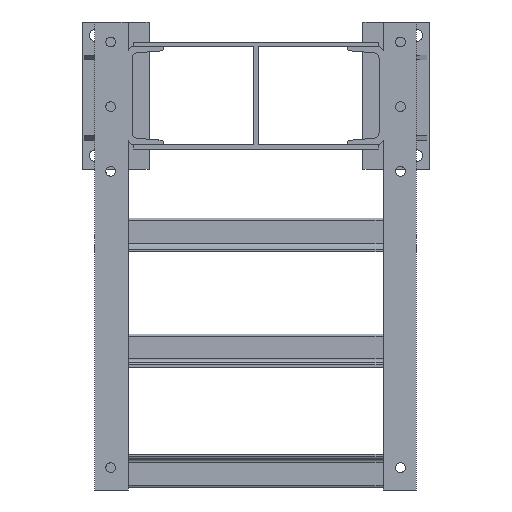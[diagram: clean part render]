
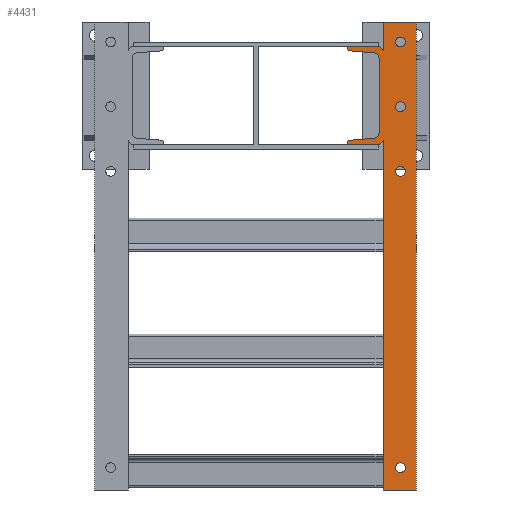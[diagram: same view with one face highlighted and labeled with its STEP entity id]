
A CAD part, front view. The second image highlights one B-rep face of the part: STEP entity #4431.
In plain terms, the highlighted planar face has unit normal (0, -1, 0).
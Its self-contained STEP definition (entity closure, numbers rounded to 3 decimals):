
#54=FACE_BOUND('',#640,.T.);
#55=FACE_BOUND('',#641,.T.);
#56=FACE_BOUND('',#642,.T.);
#57=FACE_BOUND('',#643,.T.);
#111=CIRCLE('',#4630,6.5);
#112=CIRCLE('',#4634,6.5);
#113=CIRCLE('',#4637,12.5);
#114=CIRCLE('',#4640,12.5);
#138=CIRCLE('',#4713,11.);
#140=CIRCLE('',#4716,11.);
#142=CIRCLE('',#4719,11.);
#144=CIRCLE('',#4722,11.);
#399=FACE_OUTER_BOUND('',#639,.T.);
#639=EDGE_LOOP('',(#3817,#3818,#3819,#3820,#3821,#3822,#3823,#3824,#3825,
#3826,#3827,#3828,#3829,#3830,#3831,#3832,#3833,#3834));
#640=EDGE_LOOP('',(#3835));
#641=EDGE_LOOP('',(#3836));
#642=EDGE_LOOP('',(#3837));
#643=EDGE_LOOP('',(#3838));
#907=LINE('',#6419,#1414);
#1025=LINE('',#6721,#1532);
#1031=LINE('',#6731,#1538);
#1034=LINE('',#6739,#1541);
#1042=LINE('',#6757,#1549);
#1044=LINE('',#6761,#1551);
#1046=LINE('',#6768,#1553);
#1049=LINE('',#6776,#1556);
#1052=LINE('',#6783,#1559);
#1053=LINE('',#6786,#1560);
#1076=LINE('',#6849,#1583);
#1148=LINE('',#7045,#1655);
#1150=LINE('',#7048,#1657);
#1151=LINE('',#7049,#1658);
#1414=VECTOR('',#5221,72.);
#1532=VECTOR('',#5489,12.806);
#1538=VECTOR('',#5497,72.);
#1541=VECTOR('',#5506,12.806);
#1549=VECTOR('',#5526,3.299);
#1551=VECTOR('',#5530,3.299);
#1553=VECTOR('',#5538,53.686);
#1556=VECTOR('',#5547,166.96);
#1559=VECTOR('',#5556,53.686);
#1560=VECTOR('',#5559,65.);
#1583=VECTOR('',#5602,785.);
#1655=VECTOR('',#5838,1050.);
#1657=VECTOR('',#5842,75.);
#1658=VECTOR('',#5843,75.);
#1855=VERTEX_POINT('',#6416);
#1856=VERTEX_POINT('',#6418);
#1964=VERTEX_POINT('',#6719);
#1965=VERTEX_POINT('',#6720);
#1968=VERTEX_POINT('',#6729);
#1970=VERTEX_POINT('',#6738);
#1973=VERTEX_POINT('',#6751);
#1974=VERTEX_POINT('',#6753);
#1975=VERTEX_POINT('',#6759);
#1976=VERTEX_POINT('',#6763);
#1977=VERTEX_POINT('',#6767);
#1978=VERTEX_POINT('',#6771);
#1979=VERTEX_POINT('',#6775);
#1980=VERTEX_POINT('',#6779);
#1981=VERTEX_POINT('',#6785);
#2011=VERTEX_POINT('',#6847);
#2036=VERTEX_POINT('',#6996);
#2038=VERTEX_POINT('',#7001);
#2040=VERTEX_POINT('',#7006);
#2042=VERTEX_POINT('',#7011);
#2052=VERTEX_POINT('',#7042);
#2053=VERTEX_POINT('',#7044);
#2338=EDGE_CURVE('',#1855,#1856,#907,.T.);
#2487=EDGE_CURVE('',#1964,#1965,#1025,.T.);
#2493=EDGE_CURVE('',#1968,#1964,#1031,.T.);
#2497=EDGE_CURVE('',#1970,#1855,#1034,.T.);
#2505=EDGE_CURVE('',#1973,#1974,#111,.T.);
#2507=EDGE_CURVE('',#1856,#1973,#1042,.T.);
#2509=EDGE_CURVE('',#1975,#1968,#1044,.T.);
#2511=EDGE_CURVE('',#1976,#1975,#112,.T.);
#2512=EDGE_CURVE('',#1974,#1977,#1046,.T.);
#2514=EDGE_CURVE('',#1977,#1978,#113,.T.);
#2516=EDGE_CURVE('',#1978,#1979,#1049,.T.);
#2518=EDGE_CURVE('',#1979,#1980,#114,.T.);
#2520=EDGE_CURVE('',#1980,#1976,#1052,.T.);
#2521=EDGE_CURVE('',#1965,#1981,#1053,.T.);
#2553=EDGE_CURVE('',#2011,#1970,#1076,.T.);
#2630=EDGE_CURVE('',#2036,#2036,#138,.T.);
#2632=EDGE_CURVE('',#2038,#2038,#140,.T.);
#2634=EDGE_CURVE('',#2040,#2040,#142,.T.);
#2636=EDGE_CURVE('',#2042,#2042,#144,.T.);
#2653=EDGE_CURVE('',#2053,#2052,#1148,.T.);
#2655=EDGE_CURVE('',#2052,#1981,#1150,.T.);
#2656=EDGE_CURVE('',#2053,#2011,#1151,.T.);
#3817=ORIENTED_EDGE('',*,*,#2655,.T.);
#3818=ORIENTED_EDGE('',*,*,#2521,.F.);
#3819=ORIENTED_EDGE('',*,*,#2487,.F.);
#3820=ORIENTED_EDGE('',*,*,#2493,.F.);
#3821=ORIENTED_EDGE('',*,*,#2509,.F.);
#3822=ORIENTED_EDGE('',*,*,#2511,.F.);
#3823=ORIENTED_EDGE('',*,*,#2520,.F.);
#3824=ORIENTED_EDGE('',*,*,#2518,.F.);
#3825=ORIENTED_EDGE('',*,*,#2516,.F.);
#3826=ORIENTED_EDGE('',*,*,#2514,.F.);
#3827=ORIENTED_EDGE('',*,*,#2512,.F.);
#3828=ORIENTED_EDGE('',*,*,#2505,.F.);
#3829=ORIENTED_EDGE('',*,*,#2507,.F.);
#3830=ORIENTED_EDGE('',*,*,#2338,.F.);
#3831=ORIENTED_EDGE('',*,*,#2497,.F.);
#3832=ORIENTED_EDGE('',*,*,#2553,.F.);
#3833=ORIENTED_EDGE('',*,*,#2656,.F.);
#3834=ORIENTED_EDGE('',*,*,#2653,.T.);
#3835=ORIENTED_EDGE('',*,*,#2630,.T.);
#3836=ORIENTED_EDGE('',*,*,#2632,.T.);
#3837=ORIENTED_EDGE('',*,*,#2634,.T.);
#3838=ORIENTED_EDGE('',*,*,#2636,.T.);
#4022=PLANE('',#4735);
#4431=ADVANCED_FACE('',(#399,#54,#55,#56,#57),#4022,.T.);
#4630=AXIS2_PLACEMENT_3D('',#6754,#5521,#5522);
#4634=AXIS2_PLACEMENT_3D('',#6765,#5534,#5535);
#4637=AXIS2_PLACEMENT_3D('',#6772,#5542,#5543);
#4640=AXIS2_PLACEMENT_3D('',#6780,#5551,#5552);
#4713=AXIS2_PLACEMENT_3D('',#6997,#5785,#5786);
#4716=AXIS2_PLACEMENT_3D('',#7002,#5791,#5792);
#4719=AXIS2_PLACEMENT_3D('',#7007,#5797,#5798);
#4722=AXIS2_PLACEMENT_3D('',#7012,#5803,#5804);
#4735=AXIS2_PLACEMENT_3D('',#7047,#5840,#5841);
#5221=DIRECTION('',(-1.,0.,0.));
#5489=DIRECTION('',(0.625,0.,-0.781));
#5497=DIRECTION('',(1.,0.,0.));
#5506=DIRECTION('',(-0.625,0.,-0.781));
#5521=DIRECTION('center_axis',(0.,1.,0.));
#5522=DIRECTION('ref_axis',(0.08,0.,-0.997));
#5526=DIRECTION('',(0.,0.,1.));
#5530=DIRECTION('',(0.,0.,1.));
#5534=DIRECTION('center_axis',(0.,1.,0.));
#5535=DIRECTION('ref_axis',(1.,0.,0.));
#5538=DIRECTION('',(0.997,0.,0.08));
#5542=DIRECTION('center_axis',(0.,-1.,0.));
#5543=DIRECTION('ref_axis',(0.08,0.,-0.997));
#5547=DIRECTION('',(0.,0.,1.));
#5551=DIRECTION('center_axis',(0.,-1.,0.));
#5552=DIRECTION('ref_axis',(1.,0.,0.));
#5556=DIRECTION('',(-0.997,0.,0.08));
#5559=DIRECTION('',(0.,0.,1.));
#5602=DIRECTION('',(0.,0.,1.));
#5785=DIRECTION('center_axis',(0.,1.,0.));
#5786=DIRECTION('ref_axis',(1.,0.,0.));
#5791=DIRECTION('center_axis',(0.,1.,0.));
#5792=DIRECTION('ref_axis',(1.,0.,0.));
#5797=DIRECTION('center_axis',(0.,1.,0.));
#5798=DIRECTION('ref_axis',(1.,0.,0.));
#5803=DIRECTION('center_axis',(0.,1.,0.));
#5804=DIRECTION('ref_axis',(1.,0.,0.));
#5838=DIRECTION('',(0.,0.,1.));
#5840=DIRECTION('center_axis',(0.,-1.,0.));
#5841=DIRECTION('ref_axis',(0.,0.,-1.));
#5842=DIRECTION('',(-1.,0.,0.));
#5843=DIRECTION('',(-1.,0.,0.));
#6416=CARTESIAN_POINT('',(-29.971,-21.971,1165.));
#6418=CARTESIAN_POINT('',(-101.971,-21.971,1165.));
#6419=CARTESIAN_POINT('',(-21.971,-21.971,1165.));
#6719=CARTESIAN_POINT('',(-29.971,-21.971,1385.));
#6720=CARTESIAN_POINT('',(-21.971,-21.971,1375.));
#6721=CARTESIAN_POINT('',(-3.798,-21.971,1352.283));
#6729=CARTESIAN_POINT('',(-101.971,-21.971,1385.));
#6731=CARTESIAN_POINT('',(-101.971,-21.971,1385.));
#6738=CARTESIAN_POINT('',(-21.971,-21.971,1175.));
#6739=CARTESIAN_POINT('',(-3.798,-21.971,1197.717));
#6751=CARTESIAN_POINT('',(-101.971,-21.971,1168.299));
#6753=CARTESIAN_POINT('',(-95.99,-21.971,1174.779));
#6754=CARTESIAN_POINT('Origin',(-95.471,-21.971,1168.299));
#6757=CARTESIAN_POINT('',(-101.971,-21.971,1165.));
#6759=CARTESIAN_POINT('',(-101.971,-21.971,1381.701));
#6761=CARTESIAN_POINT('',(-101.971,-21.971,1381.701));
#6763=CARTESIAN_POINT('',(-95.99,-21.971,1375.221));
#6765=CARTESIAN_POINT('Origin',(-95.471,-21.971,1381.701));
#6767=CARTESIAN_POINT('',(-42.474,-21.971,1179.06));
#6768=CARTESIAN_POINT('',(-95.99,-21.971,1174.779));
#6771=CARTESIAN_POINT('',(-30.971,-21.971,1191.52));
#6772=CARTESIAN_POINT('Origin',(-43.471,-21.971,1191.52));
#6775=CARTESIAN_POINT('',(-30.971,-21.971,1358.48));
#6776=CARTESIAN_POINT('',(-30.971,-21.971,1275.));
#6779=CARTESIAN_POINT('',(-42.474,-21.971,1370.94));
#6780=CARTESIAN_POINT('Origin',(-43.471,-21.971,1358.48));
#6783=CARTESIAN_POINT('',(-42.474,-21.971,1370.94));
#6785=CARTESIAN_POINT('',(-21.971,-21.971,1440.));
#6786=CARTESIAN_POINT('',(-21.971,-21.971,0.));
#6847=CARTESIAN_POINT('',(-21.971,-21.971,390.));
#6849=CARTESIAN_POINT('',(-21.971,-21.971,0.));
#6996=CARTESIAN_POINT('',(6.029,-21.971,1105.));
#6997=CARTESIAN_POINT('Origin',(17.029,-21.971,1105.));
#7001=CARTESIAN_POINT('',(6.029,-21.971,1395.));
#7002=CARTESIAN_POINT('Origin',(17.029,-21.971,1395.));
#7006=CARTESIAN_POINT('',(6.029,-21.971,1250.));
#7007=CARTESIAN_POINT('Origin',(17.029,-21.971,1250.));
#7011=CARTESIAN_POINT('',(6.029,-21.971,440.));
#7012=CARTESIAN_POINT('Origin',(17.029,-21.971,440.));
#7042=CARTESIAN_POINT('',(53.029,-21.971,1440.));
#7044=CARTESIAN_POINT('',(53.029,-21.971,390.));
#7045=CARTESIAN_POINT('',(53.029,-21.971,0.));
#7047=CARTESIAN_POINT('Origin',(53.029,-21.971,0.));
#7048=CARTESIAN_POINT('',(53.029,-21.971,1440.));
#7049=CARTESIAN_POINT('',(53.029,-21.971,390.));
